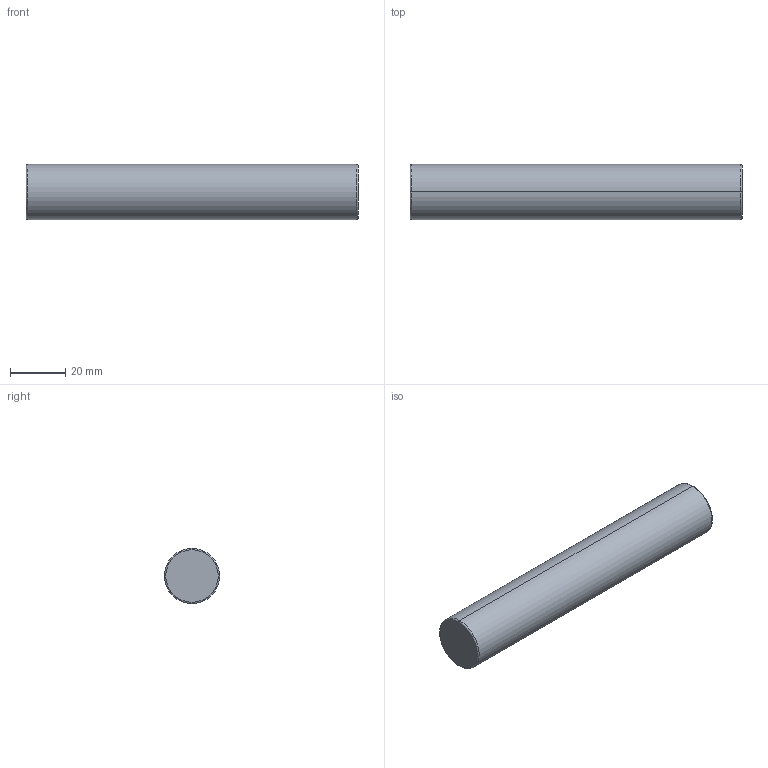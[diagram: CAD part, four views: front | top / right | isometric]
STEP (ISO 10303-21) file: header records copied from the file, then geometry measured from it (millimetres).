
FILE_DESCRIPTION (( 'STEP AP214' ), '1' );
FILE_NAME ('PASR-20x120.STEP', '2020-06-23T17:23:41', ( 'August' ), ( '' ), 'SwSTEP 2.0', 'SolidWorks 2018', '' );
FILE_SCHEMA (( 'AUTOMOTIVE_DESIGN' ));
Length unit declared in the file: millimetre
Products named in the file (1): PASR-20x120
Bounding box: 120 x 20 x 20 mm (x, y, z)
Volume: 36087.4 mm3; surface area: 8810.7 mm2
Topology: 1 solids, 1 shells, 14 faces, 26 edges, 16 vertices
Faces by surface type: cylinder 6, torus 4, plane 4
Entity records: 392 total; most frequent: DIRECTION 76, CARTESIAN_POINT 57, ORIENTED_EDGE 52, AXIS2_PLACEMENT_3D 35, EDGE_CURVE 26, CIRCLE 20, VERTEX_POINT 16, EDGE_LOOP 16
